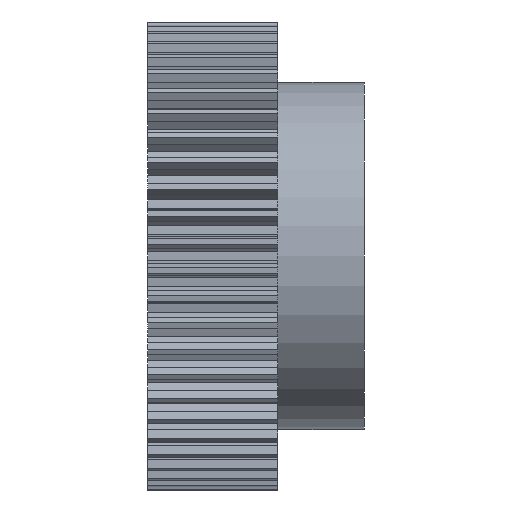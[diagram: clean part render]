
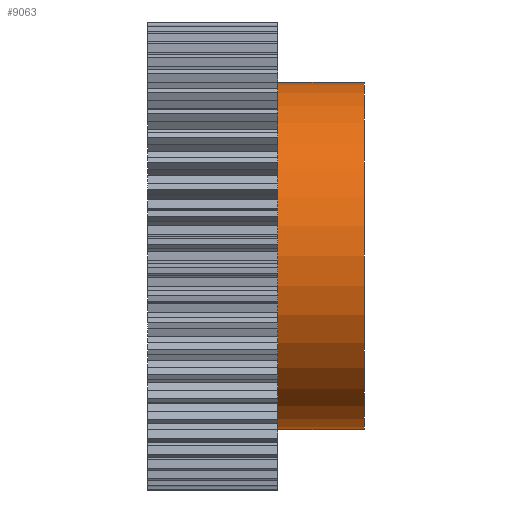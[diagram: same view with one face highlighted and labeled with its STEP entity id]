
A CAD part, front view. The second image highlights one B-rep face of the part: STEP entity #9063.
In plain terms, the highlighted cylindrical face has radius 20 mm (diameter 40 mm), a partial arc.
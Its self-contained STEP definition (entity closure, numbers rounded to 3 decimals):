
#18 = VERTEX_POINT ( 'NONE', #1019 ) ;
#29 = VERTEX_POINT ( 'NONE', #2105 ) ;
#37 = VERTEX_POINT ( 'NONE', #2083 ) ;
#1019 = CARTESIAN_POINT ( 'NONE',  ( 17.5, 0., 20. ) ) ;
#1438 = EDGE_CURVE ( 'NONE', #18, #37, #4209, .T. ) ;
#1493 = VERTEX_POINT ( 'NONE', #4310 ) ;
#2083 = CARTESIAN_POINT ( 'NONE',  ( 7.5, 0., 20. ) ) ;
#2105 = CARTESIAN_POINT ( 'NONE',  ( 17.5, 0., -20. ) ) ;
#4203 = DIRECTION ( 'NONE',  ( -1., 0., 0. ) ) ;
#4204 = VECTOR ( 'NONE', #4203, 1000. ) ;
#4208 = CARTESIAN_POINT ( 'NONE',  ( 7.5, 0., 20. ) ) ;
#4209 = LINE ( 'NONE', #4208, #4204 ) ;
#4310 = CARTESIAN_POINT ( 'NONE',  ( 7.5, 0., -20. ) ) ;
#5999 = AXIS2_PLACEMENT_3D ( 'NONE', #6003, #6002, #6001 ) ;
#6001 = DIRECTION ( 'NONE',  ( 0., 0., 1. ) ) ;
#6002 = DIRECTION ( 'NONE',  ( -1., 0., 0. ) ) ;
#6003 = CARTESIAN_POINT ( 'NONE',  ( 7.5, 0., 0. ) ) ;
#6009 = FACE_OUTER_BOUND ( 'NONE', #9748, .T. ) ;
#6015 = CYLINDRICAL_SURFACE ( 'NONE', #5999, 20. ) ;
#7438 = DIRECTION ( 'NONE',  ( 0., 0., 1. ) ) ;
#7439 = DIRECTION ( 'NONE',  ( -1., 0., 0. ) ) ;
#7440 = AXIS2_PLACEMENT_3D ( 'NONE', #7448, #7439, #7438 ) ;
#7441 = CIRCLE ( 'NONE', #7440, 20. ) ;
#7448 = CARTESIAN_POINT ( 'NONE',  ( 17.5, 0., 0. ) ) ;
#8248 = DIRECTION ( 'NONE',  ( 0., 0., 1. ) ) ;
#8249 = DIRECTION ( 'NONE',  ( 1., 0., 0. ) ) ;
#8250 = CARTESIAN_POINT ( 'NONE',  ( 7.5, 0., 0. ) ) ;
#8251 = AXIS2_PLACEMENT_3D ( 'NONE', #8250, #8249, #8248 ) ;
#8255 = CIRCLE ( 'NONE', #8251, 20. ) ;
#8705 = DIRECTION ( 'NONE',  ( -1., 0., 0. ) ) ;
#8706 = VECTOR ( 'NONE', #8705, 1000. ) ;
#8707 = CARTESIAN_POINT ( 'NONE',  ( 7.5, 0., -20. ) ) ;
#8708 = LINE ( 'NONE', #8707, #8706 ) ;
#9063 = ADVANCED_FACE ( 'NONE', ( #6009 ), #6015, .T. ) ;
#9065 = ORIENTED_EDGE ( 'NONE', *, *, #1438, .T. ) ;
#9748 = EDGE_LOOP ( 'NONE', ( #9755, #9752, #9065, #9779 ) ) ;
#9752 = ORIENTED_EDGE ( 'NONE', *, *, #9865, .T. ) ;
#9755 = ORIENTED_EDGE ( 'NONE', *, *, #10658, .F. ) ;
#9779 = ORIENTED_EDGE ( 'NONE', *, *, #10376, .T. ) ;
#9865 = EDGE_CURVE ( 'NONE', #29, #18, #7441, .T. ) ;
#10376 = EDGE_CURVE ( 'NONE', #37, #1493, #8255, .T. ) ;
#10658 = EDGE_CURVE ( 'NONE', #29, #1493, #8708, .T. ) ;
